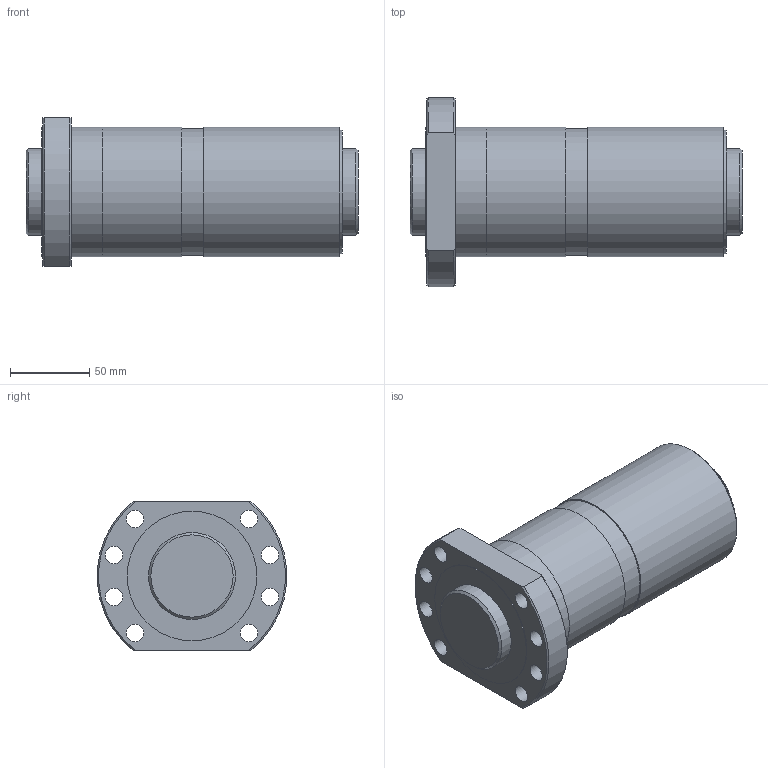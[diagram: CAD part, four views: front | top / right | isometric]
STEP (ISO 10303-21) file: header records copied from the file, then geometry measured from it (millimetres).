
FILE_DESCRIPTION(/* description */ ('STEP AP203'),/* implementation_level */ '2;1');
FILE_NAME(/* name */ 'SDAN5520VAX-4G0+210LC0(0G000)',/* time_stamp */ '2024-07-04T10:22:32+02:00',/* author */ ('License CC BY-ND 4.0'),/* organization */ ('CADENAS'),/* preprocessor_version */ 'ST-DEVELOPER v19.3',/* originating_system */ 'PARTsolutions',/* authorisation */ ' ');
FILE_SCHEMA (('CONFIG_CONTROL_DESIGN'));
Length unit declared in the file: millimetre
Products named in the file (3): SDAN5520VAX-4G0+210LC0(0G000); 0SDAN5520VAX-40Shaft; SDAN5520VAX-4_nut
Assembly tree (2 placements, depth 2):
  SDAN5520VAX-4G0+210LC0(0G000)
    0SDAN5520VAX-40Shaft
    SDAN5520VAX-4_nut
Bounding box: 210 x 119.6 x 94 mm (x, y, z)
Volume: 1116461.9 mm3; surface area: 144348.7 mm2
Topology: 2 solids, 2 shells, 41 faces, 95 edges, 65 vertices
Faces by surface type: cylinder 21, plane 13, cone 7
Full cylindrical faces by diameter (mm): 5.2 x1, 6.917 x1, 11 x8, 55 x2, 78.4 x1, 80 x1, 80.36 x1, 82 x4
Entity records: 1143 total; most frequent: CARTESIAN_POINT 208, DIRECTION 188, ORIENTED_EDGE 128, EDGE_LOOP 90, FACE_BOUND 90, AXIS2_PLACEMENT_3D 90, EDGE_CURVE 64, VERTEX_POINT 56
